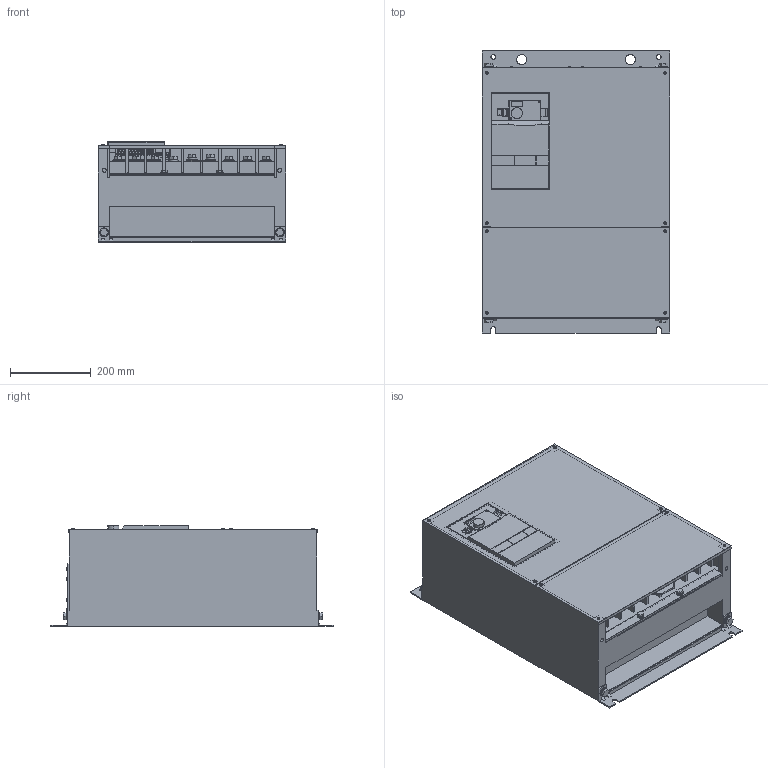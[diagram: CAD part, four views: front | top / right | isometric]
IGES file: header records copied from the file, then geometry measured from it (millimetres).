
Start section:  PTC IGES file: a720-55k_a.igs
Global section: file name: a720-55k_a.igs; native system: Pro/ENGINEER by Parametric Technology Corporation; preprocessor: 2006420; author: SA95828; organization: Unknown; date: 20100528.140922; units: millimetre
Bounding box: 465 x 700 x 250.2 mm (x, y, z)
Volume: 53540832.3 mm3; surface area: 2695456.1 mm2
Topology: 1 solids, 86 shells, 3425 faces, 8733 edges, 5573 vertices
Faces by surface type: bspline 3425
